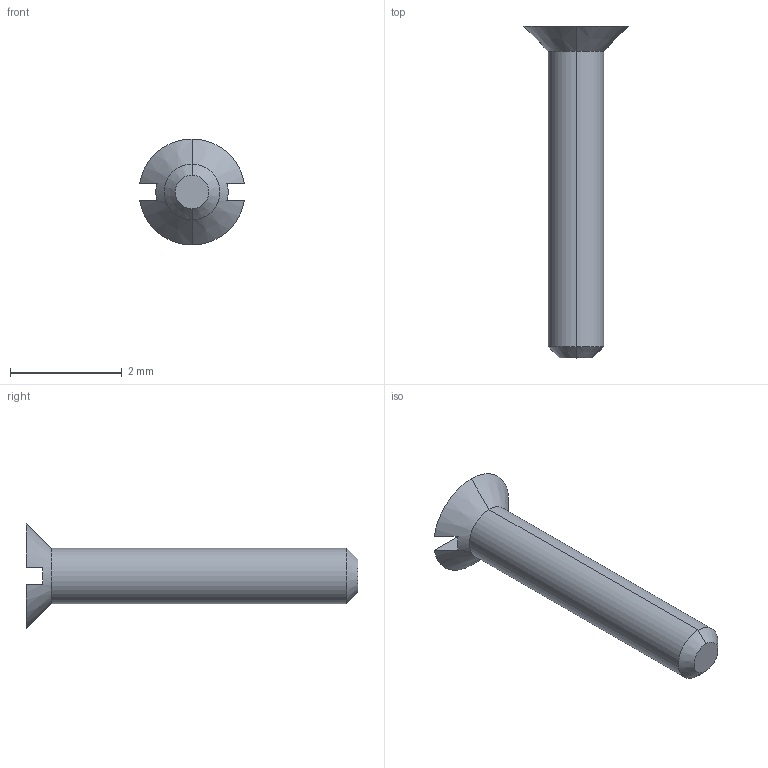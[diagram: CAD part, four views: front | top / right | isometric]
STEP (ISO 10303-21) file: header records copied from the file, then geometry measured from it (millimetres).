
FILE_DESCRIPTION (( 'STEP AP214' ), '1' );
FILE_NAME ('vite M1 x 5.STEP', '2016-02-28T09:02:01', ( '' ), ( '' ), 'SwSTEP 2.0', 'SolidWorks 2012', '' );
FILE_SCHEMA (( 'AUTOMOTIVE_DESIGN' ));
Length unit declared in the file: millimetre
Products named in the file (1): vite M1 x 5
Bounding box: 1.88 x 5.95 x 1.9 mm (x, y, z)
Volume: 4.9 mm3; surface area: 23.9 mm2
Topology: 1 solids, 1 shells, 12 faces, 26 edges, 16 vertices
Faces by surface type: plane 6, cone 4, cylinder 2
Entity records: 368 total; most frequent: CARTESIAN_POINT 67, DIRECTION 60, ORIENTED_EDGE 52, EDGE_CURVE 26, AXIS2_PLACEMENT_3D 25, VERTEX_POINT 16, EDGE_LOOP 12, ADVANCED_FACE 12
